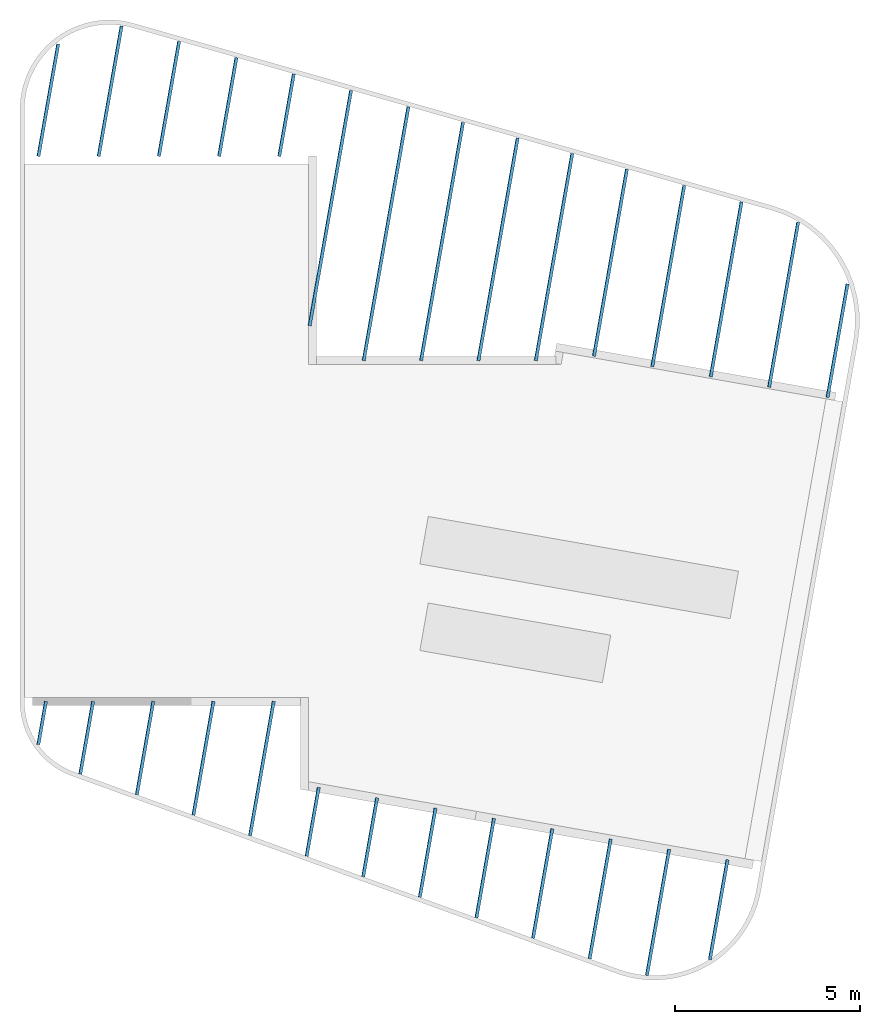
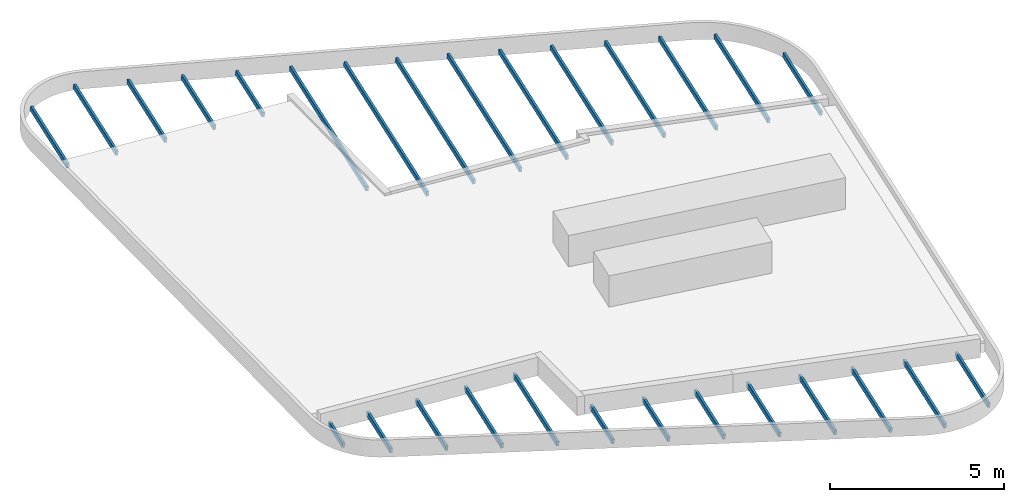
# One storey, part 1 of 3: 28 members, 2 elements without a shape of their own.
"""IFC2X3 building model written with IfcOpenShell, lengths in millimetres."""

from ifc_helpers import new_model, entity, si_unit, converted_unit, derived_unit, direction, frame, frame_2d, origin, origin_2d_with_axis, place, context, subcontext, project, spatial, rectangle, extrude, source, transform, mapped, material, type_object, type_shapes, element, aggregate, save


model = new_model("IFC2X3")

# Units and contexts
model_context = context("Model", 3, precision=0.01, world=origin(), true_north=direction((6.12303176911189e-17, 1.0)))
body_context = subcontext(model_context, "Body", "Model", "MODEL_VIEW")
ifc_project = project(units=[si_unit("LENGTHUNIT", "METRE", prefix="MILLI"), si_unit("AREAUNIT", "SQUARE_METRE"), si_unit("VOLUMEUNIT", "CUBIC_METRE"), converted_unit("PLANEANGLEUNIT", "DEGREE", entity("IfcRatioMeasure", 0.0174532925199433), si_unit("PLANEANGLEUNIT", "RADIAN"), dimensions=[0, 0, 0, 0, 0, 0, 0]), si_unit("MASSUNIT", "GRAM", prefix="KILO"), derived_unit("MASSDENSITYUNIT", [(si_unit("MASSUNIT", "GRAM", prefix="KILO"), 1), (si_unit("LENGTHUNIT", "METRE"), -3)]), derived_unit("MOMENTOFINERTIAUNIT", [(si_unit("LENGTHUNIT", "METRE"), 4)]), si_unit("TIMEUNIT", "SECOND"), si_unit("FREQUENCYUNIT", "HERTZ"), si_unit("THERMODYNAMICTEMPERATUREUNIT", "DEGREE_CELSIUS"), derived_unit("THERMALTRANSMITTANCEUNIT", [(si_unit("MASSUNIT", "GRAM", prefix="KILO"), 1), (si_unit("THERMODYNAMICTEMPERATUREUNIT", "KELVIN"), -1), (si_unit("TIMEUNIT", "SECOND"), -3)]), derived_unit("VOLUMETRICFLOWRATEUNIT", [(si_unit("LENGTHUNIT", "METRE"), 3), (si_unit("TIMEUNIT", "SECOND"), -1)]), si_unit("ELECTRICCURRENTUNIT", "AMPERE"), si_unit("ELECTRICVOLTAGEUNIT", "VOLT"), si_unit("POWERUNIT", "WATT"), si_unit("FORCEUNIT", "NEWTON", prefix="KILO"), si_unit("ILLUMINANCEUNIT", "LUX"), si_unit("LUMINOUSFLUXUNIT", "LUMEN"), si_unit("LUMINOUSINTENSITYUNIT", "CANDELA"), derived_unit("USERDEFINED", [(si_unit("MASSUNIT", "GRAM", prefix="KILO"), -1), (si_unit("LENGTHUNIT", "METRE"), -2), (si_unit("TIMEUNIT", "SECOND"), 3), (si_unit("LUMINOUSFLUXUNIT", "LUMEN"), 1)]), derived_unit("LINEARVELOCITYUNIT", [(si_unit("LENGTHUNIT", "METRE"), 1), (si_unit("TIMEUNIT", "SECOND"), -1)]), si_unit("PRESSUREUNIT", "PASCAL"), derived_unit("USERDEFINED", [(si_unit("LENGTHUNIT", "METRE"), -2), (si_unit("MASSUNIT", "GRAM", prefix="KILO"), 1), (si_unit("TIMEUNIT", "SECOND"), -2)]), derived_unit("LINEARFORCEUNIT", [(si_unit("MASSUNIT", "GRAM", prefix="KILO"), 1), (si_unit("LENGTHUNIT", "METRE"), 1), (si_unit("TIMEUNIT", "SECOND"), -2), (si_unit("LENGTHUNIT", "METRE"), -1)]), derived_unit("PLANARFORCEUNIT", [(si_unit("MASSUNIT", "GRAM", prefix="KILO"), 1), (si_unit("LENGTHUNIT", "METRE"), 1), (si_unit("TIMEUNIT", "SECOND"), -2), (si_unit("LENGTHUNIT", "METRE"), -2)])], contexts=[model_context])

# Site, building, storey
site_placement = place(None, origin())
site = spatial("IfcSite", under=ifc_project, at=site_placement, Name="<Kadaster Gemeente>;<Kadaster nummer>;<Kadaster sectie>", CompositionType="ELEMENT")
building_placement = place(site_placement, origin())
building = spatial("IfcBuilding", under=site, at=building_placement, Name="JRCZ Middelburg", CompositionType="ELEMENT")
storey_placement = place(building_placement, frame((0.0, 0.0, 6000.0)))
storey = spatial("IfcBuildingStorey", under=building, at=storey_placement, Name="03 dak", CompositionType="ELEMENT", Elevation=6000.0)

# Roof, members
curtain_wall_type = type_object("IfcCurtainWallType", Name="Sloped Glazing:dakbalken", PredefinedType="NOTDEFINED")
roof_1_placement = place(storey_placement, frame((0.0, 0.0, -6000.0)))
roof_1 = element("IfcRoof", 1, at=roof_1_placement, inside=storey, type_object=curtain_wall_type, Name="Sloped Glazing:dakbalken", ObjectType="Sloped Glazing:dakbalken", ShapeType="NOTDEFINED")
ifc_material = material(Name="Staal")
member_type_1 = type_object("IfcMemberType", Name="Rectangular Mullion:dakbalk_80x160", PredefinedType="MULLION", material=ifc_material)
shared_shape_1 = source(origin(), body_context, "Body", "SweptSolid", [
    extrude(rectangle(XDim=160.0, YDim=79.9999999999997, at=origin_2d_with_axis()), frame((0.0, -120.0, -3454.1834975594), z_axis=(0.0, 0.0, 1.0), x_axis=(0.0, -1.0, 0.0)), (0.0, 0.0, 1.0), 3454.1834975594),
])
type_shapes(member_type_1, [shared_shape_1])
placement = place(building_placement, origin())
member_1_placement = place(placement, frame((26326.4183682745, 2502.56536357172, 5874.05724691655), z_axis=(-0.173869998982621, -0.984768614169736, 0.0), x_axis=(-0.982010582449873, 0.173383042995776, 0.0747899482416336)))
member_1 = element("IfcMember", 2, at=member_1_placement, type_object=member_type_1, material=ifc_material, Name="Rectangular Mullion:dakbalk_80x160", ObjectType="Rectangular Mullion:dakbalk_80x160", context=body_context, shape_type="MappedRepresentation", body=[
    mapped(shared_shape_1, transform((0.0, 0.0, 0.0), scale=1.0)),
])
member_type_2 = type_object("IfcMemberType", Name="Rectangular Mullion:dakbalk_80x160", PredefinedType="MULLION", material=ifc_material)
shared_shape_2 = source(origin(), body_context, "Body", "SweptSolid", [
    extrude(rectangle(XDim=160.0, YDim=79.9999999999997, at=frame_2d((0.0, 1.03028696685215e-13), x_axis=(1.0, 0.0))), frame((0.0, -120.0, -3282.54037871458), z_axis=(0.0, 0.0, 1.0), x_axis=(0.0, -1.0, 0.0)), (0.0, 0.0, 1.0), 3282.54037871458),
])
type_shapes(member_type_2, [shared_shape_2])
member_2_placement = place(placement, frame((24780.2250685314, 2949.94535669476, 5994.08939131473), z_axis=(-0.173869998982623, -0.984768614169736, 0.0), x_axis=(-0.982010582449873, 0.173383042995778, 0.0747899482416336)))
member_2 = element("IfcMember", 3, at=member_2_placement, type_object=member_type_2, material=ifc_material, Name="Rectangular Mullion:dakbalk_80x160", ObjectType="Rectangular Mullion:dakbalk_80x160", context=body_context, shape_type="MappedRepresentation", body=[
    mapped(shared_shape_2, transform((0.0, 0.0, 0.0), scale=1.0)),
])
member_type_3 = type_object("IfcMemberType", Name="Rectangular Mullion:dakbalk_80x160", PredefinedType="MULLION", material=ifc_material)
shared_shape_3 = source(origin(), body_context, "Body", "SweptSolid", [
    extrude(rectangle(XDim=160.0, YDim=79.9999999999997, at=frame_2d((0.0, 9.2370555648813e-14), x_axis=(1.0, 0.0))), frame((0.0, -120.0, -3002.74274933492), z_axis=(0.0, 0.0, 1.0), x_axis=(0.0, -1.0, 0.0)), (0.0, 0.0, 1.0), 3002.74274933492),
])
type_shapes(member_type_3, [shared_shape_3])
member_3_placement = place(placement, frame((23252.8363924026, 3503.8313529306, 6114.12153537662), z_axis=(-0.173869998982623, -0.984768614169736, 0.0), x_axis=(-0.982010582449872, 0.173383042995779, 0.0747899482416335)))
member_3 = element("IfcMember", 4, at=member_3_placement, type_object=member_type_3, material=ifc_material, Name="Rectangular Mullion:dakbalk_80x160", ObjectType="Rectangular Mullion:dakbalk_80x160", context=body_context, shape_type="MappedRepresentation", body=[
    mapped(shared_shape_3, transform((0.0, 0.0, 0.0), scale=1.0)),
])
member_type_4 = type_object("IfcMemberType", Name="Rectangular Mullion:dakbalk_80x160", PredefinedType="MULLION", material=ifc_material)
shared_shape_4 = source(origin(), body_context, "Body", "SweptSolid", [
    extrude(rectangle(XDim=160.0, YDim=79.9999999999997, at=frame_2d((0.0, 7.8159700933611e-14), x_axis=(1.0, 0.0))), frame((0.0, -120.0, -2722.94394578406), z_axis=(0.0, 0.0, 1.0), x_axis=(0.0, -1.0, 0.0)), (0.0, 0.0, 1.0), 2722.94394578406),
])
type_shapes(member_type_4, [shared_shape_4])
member_4_placement = place(placement, frame((21725.4477223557, 4057.71734696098, 6234.15367896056), z_axis=(-0.173869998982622, -0.984768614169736, 0.0), x_axis=(-0.982010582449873, 0.173383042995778, 0.0747899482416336)))
member_4 = element("IfcMember", 5, at=member_4_placement, type_object=member_type_4, material=ifc_material, Name="Rectangular Mullion:dakbalk_80x160", ObjectType="Rectangular Mullion:dakbalk_80x160", context=body_context, shape_type="MappedRepresentation", body=[
    mapped(shared_shape_4, transform((0.0, 0.0, 0.0), scale=1.0)),
])
member_type_5 = type_object("IfcMemberType", Name="Rectangular Mullion:dakbalk_80x160", PredefinedType="MULLION", material=ifc_material)
shared_shape_5 = source(origin(), body_context, "Body", "SweptSolid", [
    extrude(rectangle(XDim=160.0, YDim=79.9999999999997, at=frame_2d((0.0, 6.75015598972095e-14), x_axis=(1.0, 0.0))), frame((0.0, -120.0, -2443.14397462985), z_axis=(0.0, 0.0, 1.0), x_axis=(0.0, -1.0, 0.0)), (0.0, 0.0, 1.0), 2443.14397462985),
])
type_shapes(member_type_5, [shared_shape_5])
member_5_placement = place(placement, frame((20198.059059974, 4611.60333821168, 6354.18582194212), z_axis=(-0.173869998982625, -0.984768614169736, 0.0), x_axis=(-0.982010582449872, 0.17338304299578, 0.0747899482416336)))
member_5 = element("IfcMember", 6, at=member_5_placement, type_object=member_type_5, material=ifc_material, Name="Rectangular Mullion:dakbalk_80x160", ObjectType="Rectangular Mullion:dakbalk_80x160", context=body_context, shape_type="MappedRepresentation", body=[
    mapped(shared_shape_5, transform((0.0, 0.0, 0.0), scale=1.0)),
])
member_type_6 = type_object("IfcMemberType", Name="Rectangular Mullion:dakbalk_80x160", PredefinedType="MULLION", material=ifc_material)
shared_shape_6 = source(origin(), body_context, "Body", "SweptSolid", [
    extrude(rectangle(XDim=160.0, YDim=79.9999999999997, at=frame_2d((0.0, 6.75015598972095e-14), x_axis=(1.0, 0.0))), frame((0.0, -120.0, -1992.08721443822), z_axis=(0.0, 0.0, 1.0), x_axis=(0.0, -1.0, 0.0)), (0.0, 0.0, 1.0), 1992.08721443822),
])
type_shapes(member_type_6, [shared_shape_6])
member_6_placement = place(placement, frame((11035.558815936, 7934.25503453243, 7074.23473054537), z_axis=(-0.173869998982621, -0.984768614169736, 0.0), x_axis=(-0.982010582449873, 0.173383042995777, 0.0747899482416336)))
member_6 = element("IfcMember", 7, at=member_6_placement, type_object=member_type_6, material=ifc_material, Name="Rectangular Mullion:dakbalk_80x160", ObjectType="Rectangular Mullion:dakbalk_80x160", context=body_context, shape_type="MappedRepresentation", body=[
    mapped(shared_shape_6, transform((0.0, 0.0, 0.0), scale=1.0)),
])
member_type_7 = type_object("IfcMemberType", Name="Rectangular Mullion:dakbalk_80x160", PredefinedType="MULLION", material=ifc_material)
shared_shape_7 = source(origin(), body_context, "Body", "SweptSolid", [
    extrude(rectangle(XDim=160.0, YDim=79.9999999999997, at=origin_2d_with_axis()), frame((0.0, -120.0, -3116.65488935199), z_axis=(0.0, 0.0, 1.0), x_axis=(0.0, -1.0, 0.0)), (0.0, 0.0, 1.0), 3116.65488935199),
])
type_shapes(member_type_7, [shared_shape_7])
member_7_placement = place(placement, frame((14089.4177768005, 6826.81608376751, 6834.24261559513), z_axis=(-0.173869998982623, -0.984768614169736, 0.0), x_axis=(-0.982010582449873, 0.173383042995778, 0.0747899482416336)))
member_7 = element("IfcMember", 8, at=member_7_placement, type_object=member_type_7, material=ifc_material, Name="Rectangular Mullion:dakbalk_80x160", ObjectType="Rectangular Mullion:dakbalk_80x160", context=body_context, shape_type="MappedRepresentation", body=[
    mapped(shared_shape_7, transform((0.0, 0.0, 0.0), scale=1.0)),
])
member_type_8 = type_object("IfcMemberType", Name="Rectangular Mullion:dakbalk_80x160", PredefinedType="MULLION", material=ifc_material)
shared_shape_8 = source(origin(), body_context, "Body", "SweptSolid", [
    extrude(rectangle(XDim=160.0, YDim=79.9999999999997, at=frame_2d((0.0, 6.75015598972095e-14), x_axis=(1.0, 0.0))), frame((0.0, -120.0, -2163.35447954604), z_axis=(0.0, 0.0, 1.0), x_axis=(0.0, -1.0, 0.0)), (0.0, 0.0, 1.0), 2163.35447954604),
])
type_shapes(member_type_8, [shared_shape_8])
member_8_placement = place(placement, frame((18670.7339297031, 5165.46629043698, 6474.21297215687), z_axis=(-0.17386999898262, -0.984768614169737, 0.0), x_axis=(-0.982010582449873, 0.173383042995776, 0.0747899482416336)))
member_8 = element("IfcMember", 9, at=member_8_placement, type_object=member_type_8, material=ifc_material, Name="Rectangular Mullion:dakbalk_80x160", ObjectType="Rectangular Mullion:dakbalk_80x160", context=body_context, shape_type="MappedRepresentation", body=[
    mapped(shared_shape_8, transform((0.0, 0.0, 0.0), scale=1.0)),
])
member_type_9 = type_object("IfcMemberType", Name="Rectangular Mullion:dakbalk_80x160", PredefinedType="MULLION", material=ifc_material)
shared_shape_9 = source(origin(), body_context, "Body", "SweptSolid", [
    extrude(rectangle(XDim=160.0, YDim=79.9999999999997, at=origin_2d_with_axis()), frame((0.0, -120.0, -2739.28499188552), z_axis=(0.0, 0.0, 1.0), x_axis=(0.0, -1.0, 0.0)), (0.0, 0.0, 1.0), 2739.28499188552),
])
type_shapes(member_type_9, [shared_shape_9])
member_9_placement = place(placement, frame((28026.1179829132, 2928.29109883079, 5754.07300435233), z_axis=(-0.173869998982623, -0.984768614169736, 0.0), x_axis=(-0.982010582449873, 0.173383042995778, 0.0747899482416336)))
member_9 = element("IfcMember", 10, at=member_9_placement, type_object=member_type_9, material=ifc_material, Name="Rectangular Mullion:dakbalk_80x160", ObjectType="Rectangular Mullion:dakbalk_80x160", context=body_context, shape_type="MappedRepresentation", body=[
    mapped(shared_shape_9, transform((0.0, 0.0, 0.0), scale=1.0)),
])
member_type_10 = type_object("IfcMemberType", Name="Rectangular Mullion:dakbalk_80x160", PredefinedType="MULLION", material=ifc_material)
shared_shape_10 = source(origin(), body_context, "Body", "SweptSolid", [
    extrude(rectangle(XDim=160.0, YDim=79.9999999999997, at=frame_2d((0.0, 1.35003119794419e-13), x_axis=(1.0, 0.0))), frame((0.0, -120.0, -3679.08381813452), z_axis=(0.0, 0.0, 1.0), x_axis=(0.0, -1.0, 0.0)), (0.0, 0.0, 1.0), 3679.08381813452),
])
type_shapes(member_type_10, [shared_shape_10])
member_10_placement = place(placement, frame((15616.7412650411, 6272.95372700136, 6714.2155944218), z_axis=(-0.173869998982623, -0.984768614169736, 0.0), x_axis=(-0.982010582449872, 0.173383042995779, 0.0747899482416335)))
member_10 = element("IfcMember", 11, at=member_10_placement, type_object=member_type_10, material=ifc_material, Name="Rectangular Mullion:dakbalk_80x160", ObjectType="Rectangular Mullion:dakbalk_80x160", context=body_context, shape_type="MappedRepresentation", body=[
    mapped(shared_shape_10, transform((0.0, 0.0, 0.0), scale=1.0)),
])
member_type_11 = type_object("IfcMemberType", Name="Rectangular Mullion:dakbalk_80x160", PredefinedType="MULLION", material=ifc_material)
shared_shape_11 = source(origin(), body_context, "Body", "SweptSolid", [
    extrude(rectangle(XDim=160.0, YDim=79.9999999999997, at=frame_2d((0.0, 6.75015598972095e-14), x_axis=(1.0, 0.0))), frame((0.0, -120.0, -2554.40205154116), z_axis=(0.0, 0.0, 1.0), x_axis=(0.0, -1.0, 0.0)), (0.0, 0.0, 1.0), 2554.40205154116),
])
type_shapes(member_type_11, [shared_shape_11])
member_11_placement = place(storey_placement, frame((12562.572478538, 7380.50503167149, 954.232057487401), z_axis=(-0.173869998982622, -0.984768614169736, 0.0), x_axis=(-0.982010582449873, 0.173383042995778, 0.0747899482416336)))
member_11 = element("IfcMember", 12, at=member_11_placement, type_object=member_type_11, material=ifc_material, Name="Rectangular Mullion:dakbalk_80x160", ObjectType="Rectangular Mullion:dakbalk_80x160", context=body_context, shape_type="MappedRepresentation", body=[
    mapped(shared_shape_11, transform((0.0, 0.0, 0.0), scale=1.0)),
])
member_type_12 = type_object("IfcMemberType", Name="Rectangular Mullion:dakbalk_80x160", PredefinedType="MULLION", material=ifc_material)
shared_shape_12 = source(origin(), body_context, "Body", "SweptSolid", [
    extrude(rectangle(XDim=160.0, YDim=79.9999999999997, at=origin_2d_with_axis()), frame((0.0, -120.0, -1883.60236103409), z_axis=(0.0, 0.0, 1.0), x_axis=(0.0, -1.0, 0.0)), (0.0, 0.0, 1.0), 1883.60236103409),
])
type_shapes(member_type_12, [shared_shape_12])
member_12_placement = place(storey_placement, frame((17143.6191373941, 5719.25296656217, 594.223592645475), z_axis=(-0.173869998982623, -0.984768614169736, 0.0), x_axis=(-0.982010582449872, 0.173383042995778, 0.0747899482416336)))
member_12 = element("IfcMember", 13, at=member_12_placement, type_object=member_type_12, material=ifc_material, Name="Rectangular Mullion:dakbalk_80x160", ObjectType="Rectangular Mullion:dakbalk_80x160", context=body_context, shape_type="MappedRepresentation", body=[
    mapped(shared_shape_12, transform((0.0, 0.0, 0.0), scale=1.0)),
])
member_type_13 = type_object("IfcMemberType", Name="Rectangular Mullion:dakbalk_80x160", PredefinedType="MULLION", material=ifc_material)
shared_shape_13 = source(origin(), body_context, "Body", "SweptSolid", [
    extrude(rectangle(XDim=160.0, YDim=79.9999999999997, at=origin_2d_with_axis()), frame((0.0, -120.0, -1182.44042654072), z_axis=(0.0, 0.0, 1.0), x_axis=(0.0, -1.0, 0.0)), (0.0, 0.0, 1.0), 1182.44042654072),
])
type_shapes(member_type_13, [shared_shape_13])
member_13_placement = place(storey_placement, frame((9904.43175834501, 8731.56977981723, 1168.17429596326), z_axis=(-0.173869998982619, -0.984768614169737, 0.0), x_axis=(-0.982010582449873, 0.173383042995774, 0.0747899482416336)))
member_13 = element("IfcMember", 14, at=member_13_placement, type_object=member_type_13, material=ifc_material, Name="Rectangular Mullion:dakbalk_80x160", ObjectType="Rectangular Mullion:dakbalk_80x160", context=body_context, shape_type="MappedRepresentation", body=[
    mapped(shared_shape_13, transform((0.0, 0.0, 0.0), scale=1.0)),
])
aggregate(roof_1, [member_1, member_2, member_3, member_4, member_5, member_6, member_7, member_8, member_9, member_10, member_11, member_12, member_13])

roof_2_placement = place(storey_placement, frame((0.0, 0.0, -6000.0)))
roof_2 = element("IfcRoof", 15, at=roof_2_placement, inside=storey, type_object=curtain_wall_type, Name="Sloped Glazing:dakbalken", ObjectType="Sloped Glazing:dakbalken", ShapeType="NOTDEFINED")
member_type_14 = type_object("IfcMemberType", Name="Rectangular Mullion:dakbalk_80x160", PredefinedType="MULLION", material=ifc_material)
shared_shape_14 = source(origin(), body_context, "Body", "SweptSolid", [
    extrude(rectangle(XDim=160.0, YDim=79.9999999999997, at=frame_2d((0.0, 1.03028696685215e-13), x_axis=(1.0, 0.0))), frame((0.0, -120.0, -3113.52501959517), z_axis=(0.0, 0.0, 1.0), x_axis=(0.0, -1.0, 0.0)), (0.0, 0.0, 1.0), 3113.52501959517),
])
type_shapes(member_type_14, [shared_shape_14])
member_14_placement = place(placement, frame((31199.7284501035, 18097.5236304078, 5713.68098779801), z_axis=(-0.173648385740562, -0.98480771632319, 0.0), x_axis=(-0.982049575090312, 0.173162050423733, 0.0747899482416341)))
member_14 = element("IfcMember", 16, at=member_14_placement, type_object=member_type_14, material=ifc_material, Name="Rectangular Mullion:dakbalk_80x160", ObjectType="Rectangular Mullion:dakbalk_80x160", context=body_context, shape_type="MappedRepresentation", body=[
    mapped(shared_shape_14, transform((0.0, 0.0, 0.0), scale=1.0)),
])
member_type_15 = type_object("IfcMemberType", Name="Rectangular Mullion:dakbalk_80x160", PredefinedType="MULLION", material=ifc_material)
shared_shape_15 = source(origin(), body_context, "Body", "SweptSolid", [
    extrude(rectangle(XDim=160.0, YDim=79.9999999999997, at=origin_2d_with_axis()), frame((0.0, -120.0, -4517.87403867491), z_axis=(0.0, 0.0, 1.0), x_axis=(0.0, -1.0, 0.0)), (0.0, 0.0, 1.0), 4517.87403867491),
])
type_shapes(member_type_15, [shared_shape_15])
member_15_placement = place(placement, frame((29623.8464143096, 18375.394495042, 5833.69543399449), z_axis=(-0.173648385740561, -0.98480771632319, 0.0), x_axis=(-0.982049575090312, 0.173162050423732, 0.0747899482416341)))
member_15 = element("IfcMember", 17, at=member_15_placement, type_object=member_type_15, material=ifc_material, Name="Rectangular Mullion:dakbalk_80x160", ObjectType="Rectangular Mullion:dakbalk_80x160", context=body_context, shape_type="MappedRepresentation", body=[
    mapped(shared_shape_15, transform((0.0, 0.0, 0.0), scale=1.0)),
])
member_type_16 = type_object("IfcMemberType", Name="Rectangular Mullion:dakbalk_80x160", PredefinedType="MULLION", material=ifc_material)
shared_shape_16 = source(origin(), body_context, "Body", "SweptSolid", [
    extrude(rectangle(XDim=160.0, YDim=79.9999999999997, at=frame_2d((0.0, 1.35003119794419e-13), x_axis=(1.0, 0.0))), frame((0.0, -120.0, -4795.45222745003), z_axis=(0.0, 0.0, 1.0), x_axis=(0.0, -1.0, 0.0)), (0.0, 0.0, 1.0), 4795.45222745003),
])
type_shapes(member_type_16, [shared_shape_16])
member_16_placement = place(placement, frame((28048.1957274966, 18653.2245665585, 5953.69226134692), z_axis=(-0.173648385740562, -0.98480771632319, 0.0), x_axis=(-0.982049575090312, 0.173162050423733, 0.0747899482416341)))
member_16 = element("IfcMember", 18, at=member_16_placement, type_object=member_type_16, material=ifc_material, Name="Rectangular Mullion:dakbalk_80x160", ObjectType="Rectangular Mullion:dakbalk_80x160", context=body_context, shape_type="MappedRepresentation", body=[
    mapped(shared_shape_16, transform((0.0, 0.0, 0.0), scale=1.0)),
])
member_type_17 = type_object("IfcMemberType", Name="Rectangular Mullion:dakbalk_80x160", PredefinedType="MULLION", material=ifc_material)
shared_shape_17 = source(origin(), body_context, "Body", "SweptSolid", [
    extrude(rectangle(XDim=160.0, YDim=79.9999999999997, at=frame_2d((0.0, 1.35003119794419e-13), x_axis=(1.0, 0.0))), frame((0.0, -120.0, -4961.56793290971), z_axis=(0.0, 0.0, 1.0), x_axis=(0.0, -1.0, 0.0)), (0.0, 0.0, 1.0), 4961.56793290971),
])
type_shapes(member_type_17, [shared_shape_17])
member_17_placement = place(placement, frame((26472.593595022, 18931.0460766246, 6073.68539094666), z_axis=(-0.173648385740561, -0.98480771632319, 0.0), x_axis=(-0.982049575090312, 0.173162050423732, 0.0747899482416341)))
member_17 = element("IfcMember", 19, at=member_17_placement, type_object=member_type_17, material=ifc_material, Name="Rectangular Mullion:dakbalk_80x160", ObjectType="Rectangular Mullion:dakbalk_80x160", context=body_context, shape_type="MappedRepresentation", body=[
    mapped(shared_shape_17, transform((0.0, 0.0, 0.0), scale=1.0)),
])
member_type_18 = type_object("IfcMemberType", Name="Rectangular Mullion:dakbalk_80x160", PredefinedType="MULLION", material=ifc_material)
shared_shape_18 = source(origin(), body_context, "Body", "SweptSolid", [
    extrude(rectangle(XDim=160.0, YDim=79.9999999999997, at=frame_2d((0.0, 1.66977542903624e-13), x_axis=(1.0, 0.0))), frame((0.0, -120.0, -5675.56516706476), z_axis=(0.0, 0.0, 1.0), x_axis=(0.0, -1.0, 0.0)), (0.0, 0.0, 1.0), 5675.56516706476),
])
type_shapes(member_type_18, [shared_shape_18])
member_18_placement = place(placement, frame((23328.2198035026, 19090.5028463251, 6308.00736471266), z_axis=(-0.173648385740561, -0.98480771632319, 0.0), x_axis=(-0.982049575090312, 0.173162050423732, 0.0747899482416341)))
member_18 = element("IfcMember", 20, at=member_18_placement, type_object=member_type_18, material=ifc_material, Name="Rectangular Mullion:dakbalk_80x160", ObjectType="Rectangular Mullion:dakbalk_80x160", context=body_context, shape_type="MappedRepresentation", body=[
    mapped(shared_shape_18, transform((0.0, 0.0, 0.0), scale=1.0)),
])
member_type_19 = type_object("IfcMemberType", Name="Rectangular Mullion:dakbalk_80x160", PredefinedType="MULLION", material=ifc_material)
shared_shape_19 = source(origin(), body_context, "Body", "SweptSolid", [
    extrude(rectangle(XDim=160.0, YDim=79.9999999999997, at=frame_2d((0.0, 1.66977542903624e-13), x_axis=(1.0, 0.0))), frame((0.0, -120.0, -6103.017165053), z_axis=(0.0, 0.0, 1.0), x_axis=(0.0, -1.0, 0.0)), (0.0, 0.0, 1.0), 6103.017165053),
])
type_shapes(member_type_19, [shared_shape_19])
member_19_placement = place(placement, frame((21779.7970616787, 19090.5028463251, 6422.37476453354), z_axis=(-0.173648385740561, -0.98480771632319, 0.0), x_axis=(-0.982049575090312, 0.173162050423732, 0.0747899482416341)))
member_19 = element("IfcMember", 21, at=member_19_placement, type_object=member_type_19, material=ifc_material, Name="Rectangular Mullion:dakbalk_80x160", ObjectType="Rectangular Mullion:dakbalk_80x160", context=body_context, shape_type="MappedRepresentation", body=[
    mapped(shared_shape_19, transform((0.0, 0.0, 0.0), scale=1.0)),
])
member_type_20 = type_object("IfcMemberType", Name="Rectangular Mullion:dakbalk_80x160", PredefinedType="MULLION", material=ifc_material)
shared_shape_20 = source(origin(), body_context, "Body", "SweptSolid", [
    extrude(rectangle(XDim=160.0, YDim=79.9999999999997, at=frame_2d((0.0, 9.2370555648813e-14), x_axis=(1.0, 0.0))), frame((0.0, -120.0, -6530.3978398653), z_axis=(0.0, 0.0, 1.0), x_axis=(0.0, -1.0, 0.0)), (0.0, 0.0, 1.0), 6530.3978398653),
])
type_shapes(member_type_20, [shared_shape_20])
member_20_placement = place(placement, frame((20231.6326843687, 19090.5028463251, 6536.72308140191), z_axis=(-0.173648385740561, -0.98480771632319, 0.0), x_axis=(-0.982049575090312, 0.173162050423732, 0.0747899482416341)))
member_20 = element("IfcMember", 22, at=member_20_placement, type_object=member_type_20, material=ifc_material, Name="Rectangular Mullion:dakbalk_80x160", ObjectType="Rectangular Mullion:dakbalk_80x160", context=body_context, shape_type="MappedRepresentation", body=[
    mapped(shared_shape_20, transform((0.0, 0.0, 0.0), scale=1.0)),
])
member_type_21 = type_object("IfcMemberType", Name="Rectangular Mullion:dakbalk_80x160", PredefinedType="MULLION", material=ifc_material)
shared_shape_21 = source(origin(), body_context, "Body", "SweptSolid", [
    extrude(rectangle(XDim=160.0, YDim=79.9999999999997, at=origin_2d_with_axis()), frame((0.0, -120.0, -6448.29250868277), z_axis=(0.0, 0.0, 1.0), x_axis=(0.0, -1.0, 0.0)), (0.0, 0.0, 1.0), 6448.29250868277),
])
type_shapes(member_type_21, [shared_shape_21])
member_21_placement = place(placement, frame((17224.6819791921, 20034.0693548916, 6771.10686076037), z_axis=(-0.173648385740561, -0.98480771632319, 0.0), x_axis=(-0.982049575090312, 0.173162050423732, 0.0747899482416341)))
member_21 = element("IfcMember", 23, at=member_21_placement, type_object=member_type_21, material=ifc_material, Name="Rectangular Mullion:dakbalk_80x160", ObjectType="Rectangular Mullion:dakbalk_80x160", context=body_context, shape_type="MappedRepresentation", body=[
    mapped(shared_shape_21, transform((0.0, 0.0, 0.0), scale=1.0)),
])
member_type_22 = type_object("IfcMemberType", Name="Rectangular Mullion:dakbalk_80x160", PredefinedType="MULLION", material=ifc_material)
shared_shape_22 = source(origin(), body_context, "Body", "SweptSolid", [
    extrude(rectangle(XDim=160.0, YDim=79.9999999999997, at=frame_2d((0.0, 6.75015598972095e-14), x_axis=(1.0, 0.0))), frame((0.0, -120.0, -2256.63442540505), z_axis=(0.0, 0.0, 1.0), x_axis=(0.0, -1.0, 0.0)), (0.0, 0.0, 1.0), 2256.63442540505),
])
type_shapes(member_type_22, [shared_shape_22])
member_22_placement = place(placement, frame((16406.0682069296, 24603.6476584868, 6891.08263992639), z_axis=(-0.173648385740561, -0.98480771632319, 0.0), x_axis=(-0.982049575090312, 0.173162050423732, 0.0747899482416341)))
member_22 = element("IfcMember", 24, at=member_22_placement, type_object=member_type_22, material=ifc_material, Name="Rectangular Mullion:dakbalk_80x160", ObjectType="Rectangular Mullion:dakbalk_80x160", context=body_context, shape_type="MappedRepresentation", body=[
    mapped(shared_shape_22, transform((0.0, 0.0, 0.0), scale=1.0)),
])
member_type_23 = type_object("IfcMemberType", Name="Rectangular Mullion:dakbalk_80x160", PredefinedType="MULLION", material=ifc_material)
shared_shape_23 = source(origin(), body_context, "Body", "SweptSolid", [
    extrude(rectangle(XDim=160.0, YDim=79.9999999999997, at=frame_2d((0.0, 7.8159700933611e-14), x_axis=(1.0, 0.0))), frame((0.0, -120.0, -2705.15007567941), z_axis=(0.0, 0.0, 1.0), x_axis=(0.0, -1.0, 0.0)), (0.0, 0.0, 1.0), 2705.15007567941),
])
type_shapes(member_type_23, [shared_shape_23])
member_23_placement = place(placement, frame((14781.3434747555, 24603.6476584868, 7011.08574891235), z_axis=(-0.173648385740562, -0.98480771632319, 0.0), x_axis=(-0.982049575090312, 0.173162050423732, 0.0747899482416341)))
member_23 = element("IfcMember", 25, at=member_23_placement, type_object=member_type_23, material=ifc_material, Name="Rectangular Mullion:dakbalk_80x160", ObjectType="Rectangular Mullion:dakbalk_80x160", context=body_context, shape_type="MappedRepresentation", body=[
    mapped(shared_shape_23, transform((0.0, 0.0, 0.0), scale=1.0)),
])
member_type_24 = type_object("IfcMemberType", Name="Rectangular Mullion:dakbalk_80x160", PredefinedType="MULLION", material=ifc_material)
shared_shape_24 = source(origin(), body_context, "Body", "SweptSolid", [
    extrude(rectangle(XDim=160.0, YDim=79.9999999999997, at=frame_2d((0.0, 9.2370555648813e-14), x_axis=(1.0, 0.0))), frame((0.0, -120.0, -3153.57743585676), z_axis=(0.0, 0.0, 1.0), x_axis=(0.0, -1.0, 0.0)), (0.0, 0.0, 1.0), 3153.57743585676),
])
type_shapes(member_type_24, [shared_shape_24])
member_24_placement = place(placement, frame((13156.9385688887, 24603.6476584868, 7131.06523534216), z_axis=(-0.173648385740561, -0.98480771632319, 0.0), x_axis=(-0.982049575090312, 0.173162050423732, 0.0747899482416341)))
member_24 = element("IfcMember", 26, at=member_24_placement, type_object=member_type_24, material=ifc_material, Name="Rectangular Mullion:dakbalk_80x160", ObjectType="Rectangular Mullion:dakbalk_80x160", context=body_context, shape_type="MappedRepresentation", body=[
    mapped(shared_shape_24, transform((0.0, 0.0, 0.0), scale=1.0)),
])
member_type_25 = type_object("IfcMemberType", Name="Rectangular Mullion:dakbalk_80x160", PredefinedType="MULLION", material=ifc_material)
shared_shape_25 = source(origin(), body_context, "Body", "SweptSolid", [
    extrude(rectangle(XDim=160.0, YDim=79.9999999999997, at=origin_2d_with_axis()), frame((0.0, -120.0, -3573.82213290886), z_axis=(0.0, 0.0, 1.0), x_axis=(0.0, -1.0, 0.0)), (0.0, 0.0, 1.0), 3573.82213290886),
])
type_shapes(member_type_25, [shared_shape_25])
member_25_placement = place(placement, frame((11531.8205881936, 24603.6476584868, 7251.09738989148), z_axis=(-0.17364838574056, -0.98480771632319, 0.0), x_axis=(-0.982049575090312, 0.173162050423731, 0.0747899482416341)))
member_25 = element("IfcMember", 27, at=member_25_placement, type_object=member_type_25, material=ifc_material, Name="Rectangular Mullion:dakbalk_80x160", ObjectType="Rectangular Mullion:dakbalk_80x160", context=body_context, shape_type="MappedRepresentation", body=[
    mapped(shared_shape_25, transform((0.0, 0.0, 0.0), scale=1.0)),
])
member_type_26 = type_object("IfcMemberType", Name="Rectangular Mullion:dakbalk_80x160", PredefinedType="MULLION", material=ifc_material)
shared_shape_26 = source(origin(), body_context, "Body", "SweptSolid", [
    extrude(rectangle(XDim=160.0, YDim=79.9999999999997, at=frame_2d((0.0, 1.45661260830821e-13), x_axis=(1.0, 0.0))), frame((0.0, -120.0, -5128.00219965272), z_axis=(0.0, 0.0, 1.0), x_axis=(0.0, -1.0, 0.0)), (0.0, 0.0, 1.0), 5128.00219965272),
])
type_shapes(member_type_26, [shared_shape_26])
member_26_placement = place(placement, frame((24897.2987827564, 19208.8133977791, 6193.65511596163), z_axis=(-0.173648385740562, -0.98480771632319, 0.0), x_axis=(-0.982049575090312, 0.173162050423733, 0.0747899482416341)))
member_26 = element("IfcMember", 28, at=member_26_placement, type_object=member_type_26, material=ifc_material, Name="Rectangular Mullion:dakbalk_80x160", ObjectType="Rectangular Mullion:dakbalk_80x160", context=body_context, shape_type="MappedRepresentation", body=[
    mapped(shared_shape_26, transform((0.0, 0.0, 0.0), scale=1.0)),
])
member_type_27 = type_object("IfcMemberType", Name="Rectangular Mullion:dakbalk_80x160", PredefinedType="MULLION", material=ifc_material)
shared_shape_27 = source(origin(), body_context, "Body", "SweptSolid", [
    extrude(rectangle(XDim=160.0, YDim=79.9999999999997, at=frame_2d((0.0, 2.02504679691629e-13), x_axis=(1.0, 0.0))), frame((0.0, -120.0, -6957.73884313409), z_axis=(0.0, 0.0, 1.0), x_axis=(0.0, -1.0, 0.0)), (0.0, 0.0, 1.0), 6957.73884313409),
])
type_shapes(member_type_27, [shared_shape_27])
member_27_placement = place(placement, frame((18683.3004168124, 19090.5028463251, 6651.08379874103), z_axis=(-0.173648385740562, -0.98480771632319, 0.0), x_axis=(-0.982049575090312, 0.173162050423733, 0.0747899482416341)))
member_27 = element("IfcMember", 29, at=member_27_placement, type_object=member_type_27, material=ifc_material, Name="Rectangular Mullion:dakbalk_80x160", ObjectType="Rectangular Mullion:dakbalk_80x160", context=body_context, shape_type="MappedRepresentation", body=[
    mapped(shared_shape_27, transform((0.0, 0.0, 0.0), scale=1.0)),
])
member_type_28 = type_object("IfcMemberType", Name="Rectangular Mullion:dakbalk_80x160", PredefinedType="MULLION", material=ifc_material)
shared_shape_28 = source(origin(), body_context, "Body", "SweptSolid", [
    extrude(rectangle(XDim=160.0, YDim=79.9999999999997, at=frame_2d((0.0, 9.2370555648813e-14), x_axis=(1.0, 0.0))), frame((0.0, -120.0, -3078.76301264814), z_axis=(0.0, 0.0, 1.0), x_axis=(0.0, -1.0, 0.0)), (0.0, 0.0, 1.0), 3078.76301264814),
])
type_shapes(member_type_28, [shared_shape_28])
member_28_placement = place(storey_placement, frame((9906.65781785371, 24603.6476584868, 1371.13285262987), z_axis=(-0.173648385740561, -0.98480771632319, 0.0), x_axis=(-0.982049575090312, 0.173162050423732, 0.0747899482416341)))
member_28 = element("IfcMember", 30, at=member_28_placement, type_object=member_type_28, material=ifc_material, Name="Rectangular Mullion:dakbalk_80x160", ObjectType="Rectangular Mullion:dakbalk_80x160", context=body_context, shape_type="MappedRepresentation", body=[
    mapped(shared_shape_28, transform((0.0, 0.0, 0.0), scale=1.0)),
])
aggregate(roof_2, [member_14, member_15, member_16, member_17, member_18, member_19, member_20, member_21, member_22, member_23, member_24, member_25, member_26, member_27, member_28])

save(model, "model.ifc")
